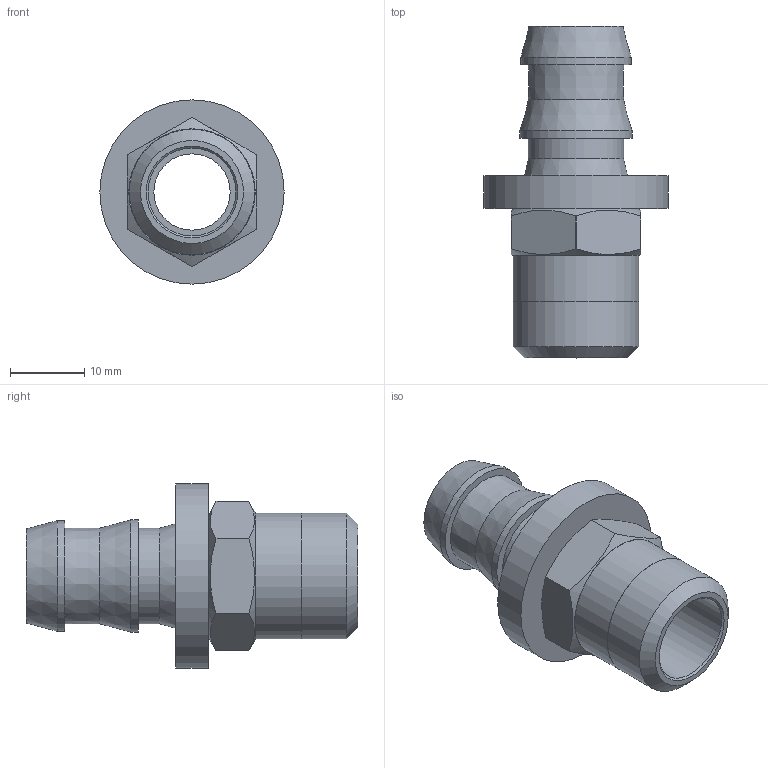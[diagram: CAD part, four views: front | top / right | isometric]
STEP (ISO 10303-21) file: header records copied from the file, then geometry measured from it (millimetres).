
FILE_DESCRIPTION(/* description */ (''),/* implementation_level */ '2;1');
FILE_NAME(/* name */ 'C:/Users/drich/Desktop/PLM-08-06 v2.step',/* time_stamp */ '2020-02-02T14:46:52-06:00',/* author */ (''),/* organization */ (''),/* preprocessor_version */ 'ST-DEVELOPER v18',/* originating_system */ 'Autodesk Translation Framework v8.12.0.6',/* authorisation */ '');
FILE_SCHEMA (('AUTOMOTIVE_DESIGN { 1 0 10303 214 3 1 1 }'));
Length unit declared in the file: inch
Products named in the file (2): PLM-08-06; FW-10
Assembly tree (1 placements, depth 2):
  PLM-08-06
    FW-10
Bounding box: 24.89 x 44.83 x 24.89 mm (x, y, z)
Volume: 4859.8 mm3; surface area: 5381.6 mm2
Topology: 2 solids, 2 shells, 45 faces, 118 edges, 85 vertices
Faces by surface type: plane 18, cylinder 17, cone 10
Full cylindrical faces by diameter (mm): 10.312 x1, 11.887 x1, 12.903 x1, 13.371 x1, 14.859 x1, 15.149 x2, 16.967 x1, 17.018 x1, 22.352 x1, 24.892 x1
Entity records: 1523 total; most frequent: DIRECTION 275, CARTESIAN_POINT 275, ORIENTED_EDGE 236, AXIS2_PLACEMENT_3D 121, EDGE_CURVE 118, VERTEX_POINT 85, CIRCLE 73, EDGE_LOOP 57
